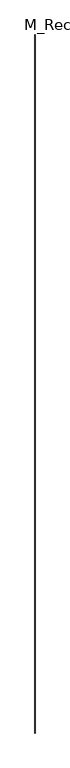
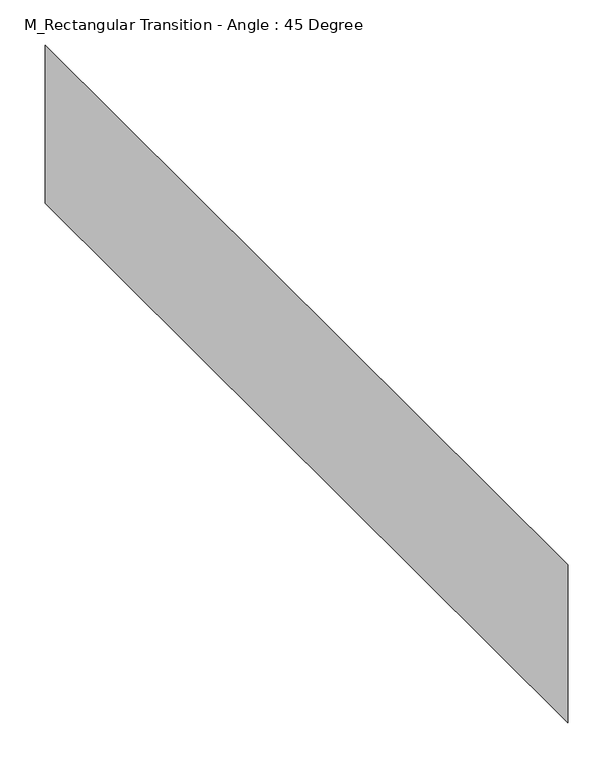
"""IFC4 building model written with IfcOpenShell, lengths in millimetres: duct fitting geometry, M_Rectangular Transition - Angle : 45 Degree."""

import ifcopenshell
import ifcopenshell.guid

model = None  # the IFC model being written
_history = None  # IfcOwnerHistory: only IFC2X3 demands one
_inside = {}  # id of a spatial element -> (the spatial element, [elements in it])
_under = {}  # id of a project, library or spatial element -> (it, [spatial elements below it])
_declared = {}  # id of a project -> (the project, [libraries it declares])
_typed = {}  # id of a type object -> (the type object, [elements of that type])
_made_of = {}  # id of a material, layer set ... -> (it, [elements and type objects made of it])


def new_model(schema):
    """Start an empty IFC model of exactly this schema.

    Asked for "IFC4X3", IfcOpenShell would pick the latest addendum, in which some entities
    have other attributes; the version numbers below select the first issue.
    IFC2X3 requires an IfcOwnerHistory on every rooted entity: one is made here for all.
    """
    global model, _history
    if schema == "IFC4X3":
        model = ifcopenshell.file(schema_version=(4, 3, 0, 0))
    else:
        model = ifcopenshell.file(schema=schema)
    _inside.clear()
    _under.clear()
    _declared.clear()
    _typed.clear()
    _made_of.clear()
    _history = None
    if model.schema == "IFC2X3":
        org = make("IfcOrganization", Name="unknown")
        user = make(
            "IfcPersonAndOrganization",
            ThePerson=make("IfcPerson", FamilyName="unknown"),
            TheOrganization=org,
        )
        app = make(
            "IfcApplication",
            ApplicationDeveloper=org,
            Version="unknown",
            ApplicationFullName="unknown",
            ApplicationIdentifier="unknown",
        )
        _history = make(
            "IfcOwnerHistory",
            OwningUser=user,
            OwningApplication=app,
            ChangeAction="ADDED",
            CreationDate=0,
        )
    return model


def make(cls, **values):
    """One entity of the class cls with the attributes given. An attribute that is None is left unset."""
    return model.create_entity(
        cls, **{name: value for name, value in values.items() if value is not None}
    )


def rooted(cls, **values):
    """An entity with a GlobalId (a new one), such as an element, a storey or a relation."""
    return make(cls, GlobalId=ifcopenshell.guid.new(), OwnerHistory=_history, **values)


def si_unit(unit_type, name, prefix=None):
    """IfcSIUnit, for example si_unit("LENGTHUNIT", "METRE", prefix="MILLI")."""
    return make("IfcSIUnit", UnitType=unit_type, Prefix=prefix, Name=name)


def assignment(units):
    """IfcUnitAssignment: the units of a project."""
    return None if units is None else make("IfcUnitAssignment", Units=units)


def point(xyz):
    """IfcCartesianPoint."""
    return None if xyz is None else make("IfcCartesianPoint", Coordinates=xyz)


def direction(xyz):
    """IfcDirection."""
    return None if xyz is None else make("IfcDirection", DirectionRatios=xyz)


def frame(location, z_axis=None, x_axis=None):
    """IfcAxis2Placement3D, a coordinate frame: its origin and axes. An axis left out is left unset."""
    return make(
        "IfcAxis2Placement3D",
        Location=point(location),
        Axis=direction(z_axis),
        RefDirection=direction(x_axis),
    )


def origin():
    """The frame at (0, 0, 0) with its axes left unset."""
    return frame((0.0, 0.0, 0.0))


def place(relative_to, where):
    """IfcLocalPlacement: puts the frame where relative to a parent placement (None: the world)."""
    return make(
        "IfcLocalPlacement", PlacementRelTo=relative_to, RelativePlacement=where
    )


def context(
    kind, dimensions, precision=None, world=None, true_north=None, identifier=None
):
    """IfcGeometricRepresentationContext, for example the 3D "Model" context."""
    return make(
        "IfcGeometricRepresentationContext",
        ContextIdentifier=identifier,
        ContextType=kind,
        CoordinateSpaceDimension=dimensions,
        Precision=precision,
        WorldCoordinateSystem=world,
        TrueNorth=true_north,
    )


def project(units=None, contexts=None):
    """IfcProject with its units and contexts."""
    return rooted(
        "IfcProject",
        Name="project",
        RepresentationContexts=contexts,
        UnitsInContext=assignment(units),
    )


def spatial(cls, under=None, at=None, **own):
    """A site, building, storey or space (cls), placed at a placement, below another one or the project."""
    s = rooted(cls, ObjectPlacement=at, **own)
    if under is not None:
        _under.setdefault(under.id(), (under, []))[1].append(s)
    return s


def faces_of(points, faces, orient=None, outer=None):
    """IfcFace entities. A face is a list of loops; a loop is a list of indices into points, from 0.

    orient and outer hold one flag for each loop. By default every Orientation is true, the
    first loop of a face is its IfcFaceOuterBound and the others are IfcFaceBound.
    """
    made = []
    for i, loops in enumerate(faces):
        bounds = []
        for j, loop in enumerate(loops):
            is_outer = j == 0 if outer is None else outer[i][j]
            bounds.append(
                make(
                    "IfcFaceOuterBound" if is_outer else "IfcFaceBound",
                    Bound=make("IfcPolyLoop", Polygon=[points[k] for k in loop]),
                    Orientation=True if orient is None else orient[i][j],
                )
            )
        made.append(make("IfcFace", Bounds=bounds))
    return made


def faceted_brep(points, faces, orient=None, outer=None, voids=None):
    """IfcFacetedBrep: a solid bounded by flat faces; with voids (closed shells), ...WithVoids."""
    shared = [point(p) for p in points]
    hull = make("IfcClosedShell", CfsFaces=faces_of(shared, faces, orient, outer))
    if voids is None:
        return make("IfcFacetedBrep", Outer=hull)
    return make(
        "IfcFacetedBrepWithVoids",
        Outer=hull,
        Voids=[
            make(cls, CfsFaces=faces_of(shared, fs, o, b)) for cls, fs, o, b in voids
        ],
    )


def shape(context_of_items, identifier, shape_type, items):
    """IfcShapeRepresentation: the items that make up one representation, for example the "Body"."""
    return make(
        "IfcShapeRepresentation",
        ContextOfItems=context_of_items,
        RepresentationIdentifier=identifier,
        RepresentationType=shape_type,
        Items=items,
    )


def source(mapping_origin, context_of_items, identifier, shape_type, items):
    """IfcRepresentationMap: a shape defined once, which mapped items show again and again."""
    return make(
        "IfcRepresentationMap",
        MappingOrigin=mapping_origin,
        MappedRepresentation=shape(context_of_items, identifier, shape_type, items),
    )


def transform(
    local_origin,
    x_axis=None,
    y_axis=None,
    z_axis=None,
    scale=None,
    scale2=None,
    scale3=None,
    uniform=True,
):
    """IfcCartesianTransformationOperator3D, or its non-uniform kind. x_axis, y_axis, z_axis: its Axis1, 2, 3."""
    if uniform:
        return make(
            "IfcCartesianTransformationOperator3D",
            Axis1=direction(x_axis),
            Axis2=direction(y_axis),
            LocalOrigin=point(local_origin),
            Scale=scale,
            Axis3=direction(z_axis),
        )
    return make(
        "IfcCartesianTransformationOperator3DnonUniform",
        Axis1=direction(x_axis),
        Axis2=direction(y_axis),
        LocalOrigin=point(local_origin),
        Scale=scale,
        Axis3=direction(z_axis),
        Scale2=scale2,
        Scale3=scale3,
    )


def mapped(mapping_source, mapping_target):
    """IfcMappedItem: shows the shape of a source again, moved by a transform."""
    return make(
        "IfcMappedItem", MappingSource=mapping_source, MappingTarget=mapping_target
    )


def made_of(thing, what):
    """Note that an element or type object is made of a material, layer set ...; save() writes the relation."""
    if what is not None:
        _made_of.setdefault(what.id(), (what, []))[1].append(thing)
    return thing


def element(
    cls,
    number,
    at=None,
    inside=None,
    cuts=None,
    type_object=None,
    material=None,
    context=None,
    identifier="Body",
    shape_type=None,
    held_by="IfcProductDefinitionShape",
    body=None,
    shapes=None,
    **own,
):
    """One element of the class cls, such as IfcWall. Its Tag is "e" and its number.

    at: its placement. inside: the storey or other place that contains it. cuts: it is an
    opening in that element (IfcRelVoidsElement). A single representation is given by context,
    identifier, shape_type and body (its items); several are given by shapes. held_by: the class
    of the entity that holds the representations. save() writes the other relations.
    """
    e = rooted(cls, Tag="e%d" % number, ObjectPlacement=at, **own)
    if body is not None:
        shapes = [shape(context, identifier, shape_type, body)]
    if shapes is not None:
        e.Representation = make(held_by, Representations=shapes)
    if inside is not None:
        _inside.setdefault(inside.id(), (inside, []))[1].append(e)
    if cuts is not None:
        rooted(
            "IfcRelVoidsElement", RelatingBuildingElement=cuts, RelatedOpeningElement=e
        )
    if type_object is not None:
        _typed.setdefault(type_object.id(), (type_object, []))[1].append(e)
    return made_of(e, material)


def aggregate(whole, parts):
    """IfcRelAggregates: a whole, such as a stair, and the parts it consists of."""
    return rooted("IfcRelAggregates", RelatingObject=whole, RelatedObjects=parts)


def save(model, path):
    """Write the relations noted so far, then the file.

    IfcRelAggregates (storeys below a building ...), IfcRelContainedInSpatialStructure (elements
    in a storey), IfcRelDefinesByType, IfcRelAssociatesMaterial and IfcRelDeclares: one each for
    every whole, place, type object, material and project.
    """
    for whole, parts in _under.values():
        aggregate(whole, parts)
    for where, things in _inside.values():
        rooted(
            "IfcRelContainedInSpatialStructure",
            RelatedElements=things,
            RelatingStructure=where,
        )
    for kind, things in _typed.values():
        rooted("IfcRelDefinesByType", RelatedObjects=things, RelatingType=kind)
    for what, things in _made_of.values():
        rooted("IfcRelAssociatesMaterial", RelatedObjects=things, RelatingMaterial=what)
    for by, libraries in _declared.values():
        rooted("IfcRelDeclares", RelatingContext=by, RelatedDefinitions=libraries)
    model.write(path)


def m_rectangular_transition_angle_45_degree_3270bfc3(model_context):
    return source(origin(), model_context, "Body", "Brep", [
        faceted_brep([(0.2976657, -581.0, 107.1522985), (0.2976657, -581.0, -106.8477015), (0.2976657, 581.0, -106.8477015), (0.2976657, 581.0, 107.1522985), (0.0, -580.9375, 107.15), (0.0, 580.9375, 107.15), (0.0, 580.9375, -107.15), (0.0, -580.9375, -107.15)], [[[0, 1, 2, 3]], [[4, 5, 6, 7]], [[4, 7, 1, 0]], [[7, 6, 2, 1]], [[6, 5, 3, 2]], [[5, 4, 0, 3]]]),
    ])


if __name__ == "__main__":
    model = new_model("IFC4")
    model_context = context("Model", 3, world=origin())
    ifc_project = project(units=[si_unit("LENGTHUNIT", "METRE", prefix="MILLI")], contexts=[model_context])
    site = spatial("IfcSite", under=ifc_project)
    building = spatial("IfcBuilding", under=site)
    placement = place(None, origin())
    m_rectangular_transition_angle_45_degree_shape = m_rectangular_transition_angle_45_degree_3270bfc3(model_context)
    element("IfcDuctFitting", 1, ObjectType="M_Rectangular Transition - Angle : 45 Degree", at=placement, inside=building, context=model_context, shape_type="MappedRepresentation", body=[
        mapped(m_rectangular_transition_angle_45_degree_shape, transform((0.0, 0.0, 0.0), x_axis=(1.0, 0.0, 0.0), y_axis=(0.0, 1.0, 0.0), z_axis=(0.0, 0.0, 1.0))),
    ])
    save(model, "model.ifc")
